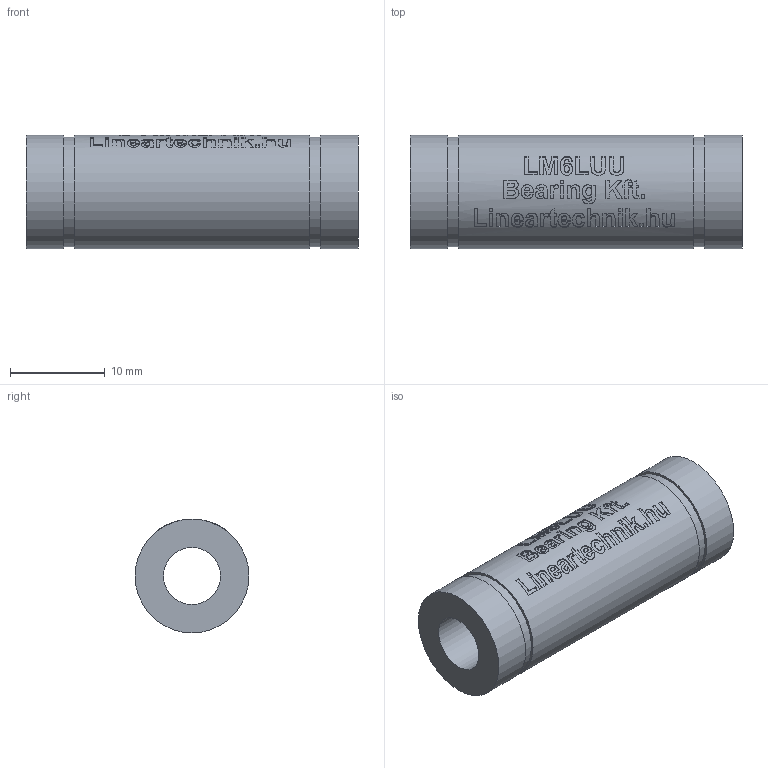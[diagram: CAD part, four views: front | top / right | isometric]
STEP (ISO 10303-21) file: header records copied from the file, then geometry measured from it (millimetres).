
FILE_DESCRIPTION(/* description */ (''),/* implementation_level */ '2;1');
FILE_NAME(/* name */ 'LM6LUU',/* time_stamp */ '2019-05-16T09:39:21+02:00',/* author */ ('VĂ©gh MĂˇtĂ©'),/* organization */ ('Bearing Kft'),/* preprocessor_version */ 'ST-DEVELOPER v16.7',/* originating_system */ 'DEX',/* authorisation */ $);
FILE_SCHEMA (('AUTOMOTIVE_DESIGN {1 0 10303 214 3 1 1}'));
Length unit declared in the file: millimetre
Products named in the file (1): LM6LUU
Bounding box: 35 x 12 x 12 mm (x, y, z)
Volume: 2944.2 mm3; surface area: 2207.2 mm2
Topology: 1 solids, 1 shells, 300 faces, 750 edges, 501 vertices
Faces by surface type: plane 157, bspline 92, cylinder 51
Full cylindrical faces by diameter (mm): 6 x1, 11.5 x2, 12 x3
Entity records: 16494 total; most frequent: CARTESIAN_POINT 9809, ORIENTED_EDGE 1480, DIRECTION 1113, EDGE_CURVE 740, VERTEX_POINT 499, LINE 409, VECTOR 409, EDGE_LOOP 359
